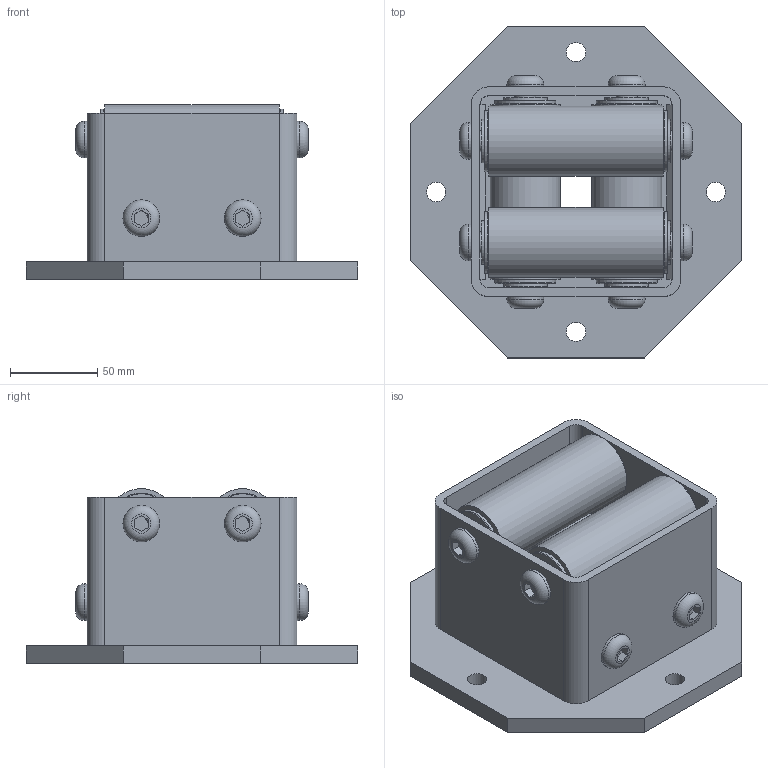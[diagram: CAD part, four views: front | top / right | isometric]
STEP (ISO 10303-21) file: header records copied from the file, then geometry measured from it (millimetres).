
FILE_DESCRIPTION(/* description */ ('Seilkreuz SK 03 G'),/* implementation_level */ '2;1');
FILE_NAME(/* name */ 'Z:\Workspace\03 Seilrollen\1.412 Seilkreuz\1.412.03 Seilkreuz SK 03 G\1.412.03 Seilkreuz SK 03 G.stp',/* time_stamp */ '2021-10-26T09:15:22+02:00',/* author */ ('cad-user'),/* organization */ (''),/* preprocessor_version */ 'ST-DEVELOPER v18',/* originating_system */ 'Autodesk Inventor 2020',/* authorisation */ '');
FILE_SCHEMA (('AUTOMOTIVE_DESIGN { 1 0 10303 214 3 1 1 }'));
Length unit declared in the file: millimetre
Products named in the file (9): 1.412.03 Seilkreuz SK 03 G; 1.412.03.01 Konsole Schweißteil; 1.412.03.01 Konsole Schweißteil_1; 1.412.03.02 Platte; 1.412.03.03 VK-Rohr 120x120x5; 1.412.03.04 Rohr ø40 x 5; BB253032BP25  ; 1.412.03.05 Achse; ISO 7380 - M12 x 30
Assembly tree (28 placements, depth 3):
  1.412.03 Seilkreuz SK 03 G
    1.412.03.01 Konsole Schweißteil
      1.412.03.01 Konsole Schweißteil_1
      1.412.03.02 Platte
      1.412.03.03 VK-Rohr 120x120x5
    1.412.03.04 Rohr ø40 x 5  x4
    BB253032BP25    x8
    1.412.03.05 Achse  x4
    ISO 7380 - M12 x 30  x8
Bounding box: 190 x 190 x 100 mm (x, y, z)
Volume: 933629.4 mm3; surface area: 347877.8 mm2
Topology: 28 solids, 28 shells, 311 faces, 829 edges, 590 vertices
Faces by surface type: plane 142, cylinder 81, cone 64, torus 24
Full cylindrical faces by diameter (mm): 10.106 x8, 11 x4, 12 x8, 13 x8, 21 x8, 25 x12, 30 x12, 35 x8, 40 x4, 85 x1
Entity records: 3372 total; most frequent: DIRECTION 584, CARTESIAN_POINT 536, ORIENTED_EDGE 464, AXIS2_PLACEMENT_3D 233, EDGE_CURVE 232, VERTEX_POINT 164, EDGE_LOOP 126, LINE 118
